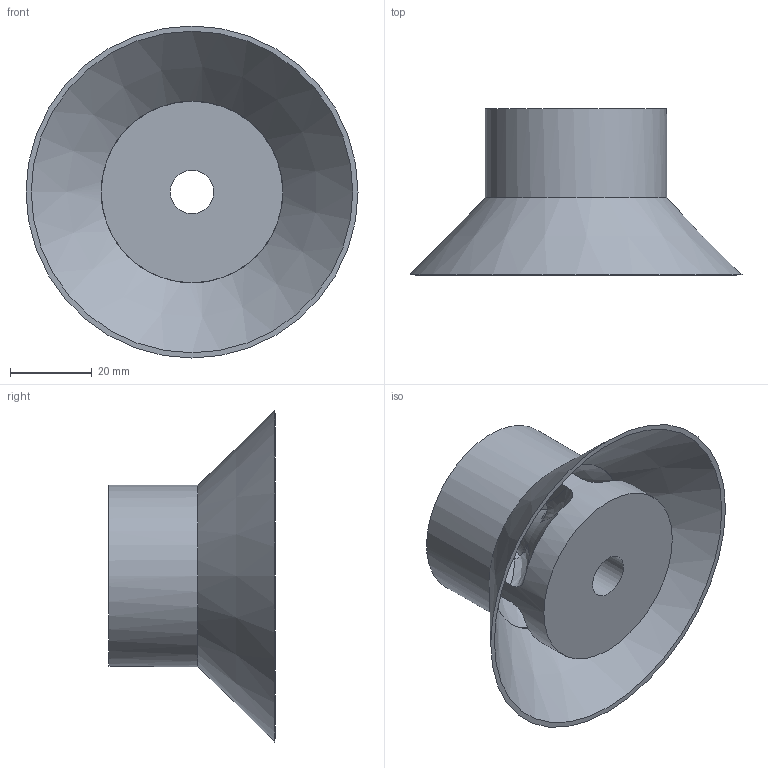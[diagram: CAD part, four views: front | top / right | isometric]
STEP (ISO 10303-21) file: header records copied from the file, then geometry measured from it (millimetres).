
FILE_DESCRIPTION(/* description */ (''),/* implementation_level */ '2;1');
FILE_NAME(/* name */ 'C:/Users/Owner/Desktop/KCAD 3Dp Fuel Filter Baffles Gen1/STEP Versions/1.75DIAx1.6 High Baffles STEP/1.75 Dia 42 CAL Baffle STEP.step',/* time_stamp */ '2019-05-22T19:21:17-04:00',/* author */ (''),/* organization */ (''),/* preprocessor_version */ 'ST-DEVELOPER v18',/* originating_system */ 'Autodesk Translation Framework v8.2.0.1029',/* authorisation */ '');
FILE_SCHEMA (('AUTOMOTIVE_DESIGN { 1 0 10303 214 3 1 1 }'));
Length unit declared in the file: inch
Products named in the file (1): baf 1.75 dia 1.6 high 42 cal
Bounding box: 81.28 x 40.64 x 81.28 mm (x, y, z)
Volume: 48325.5 mm3; surface area: 23342.3 mm2
Topology: 1 solids, 1 shells, 40 faces, 146 edges, 100 vertices
Faces by surface type: plane 14, bspline 13, cone 7, cylinder 4, torus 2
Full cylindrical faces by diameter (mm): 10.668 x2, 44.45 x2
Entity records: 2301 total; most frequent: CARTESIAN_POINT 1170, ORIENTED_EDGE 292, DIRECTION 159, EDGE_CURVE 146, VERTEX_POINT 100, B_SPLINE_CURVE_WITH_KNOTS 70, AXIS2_PLACEMENT_3D 64, EDGE_LOOP 42
